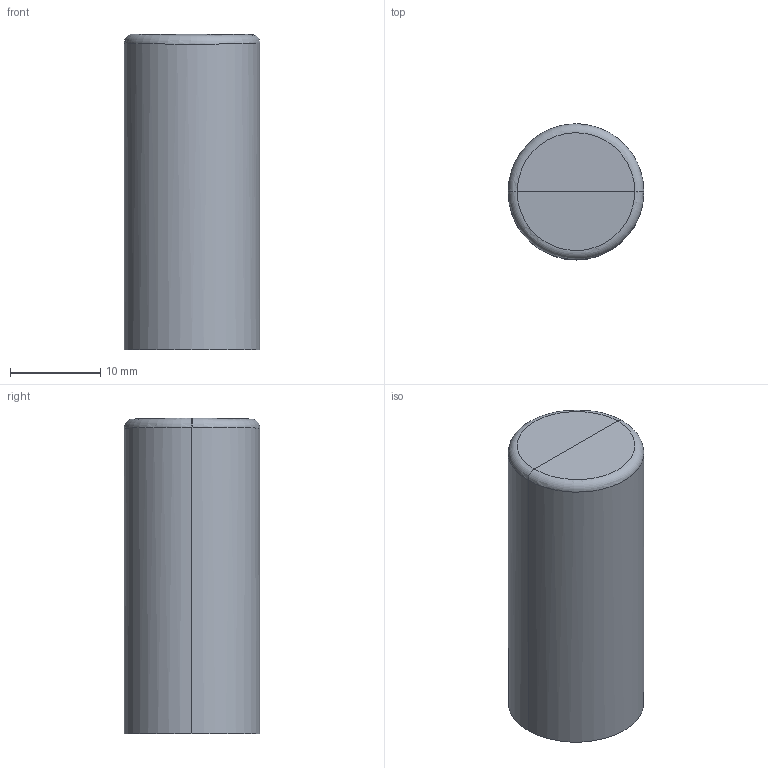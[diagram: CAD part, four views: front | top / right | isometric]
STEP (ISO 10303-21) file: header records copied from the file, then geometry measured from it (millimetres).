
FILE_DESCRIPTION((''),'2;1');
FILE_NAME('1002857_ME_FIT_NO-LABEL_ASM','2022-11-03T',('fsanchez'),(''),'CREO PARAMETRIC BY PTC INC, 2016130','CREO PARAMETRIC BY PTC INC, 2016130','');
FILE_SCHEMA(('CONFIG_CONTROL_DESIGN','GEOMETRIC_VALIDATION_PROPERTIES_MIM'));
Length unit declared in the file: millimetre
Products named in the file (3): 1002857_ME_FIT_1_1; 1002857_ME_FIT_1_ASM; 1002857_ME_FIT_NO-LABEL_ASM
Assembly tree (2 placements, depth 3):
  1002857_ME_FIT_NO-LABEL_ASM
    1002857_ME_FIT_1_ASM
      1002857_ME_FIT_1_1
Bounding box: 15 x 15 x 34.93 mm (x, y, z)
Volume: 5890.9 mm3; surface area: 2239.8 mm2
Topology: 1 solids, 1 shells, 49 faces, 126 edges, 84 vertices
Faces by surface type: cylinder 29, plane 8, bspline 8, torus 2, cone 2
Entity records: 4623 total; most frequent: CARTESIAN_POINT 2833, ORIENTED_EDGE 252, DIRECTION 199, EDGE_CURVE 126, VERTEX_POINT 84, AXIS2_PLACEMENT_3D 82, FILL_AREA_STYLE_COLOUR 82, FILL_AREA_STYLE 82
